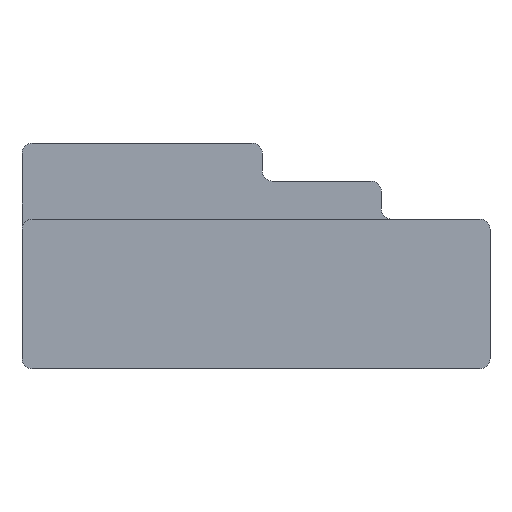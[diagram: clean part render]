
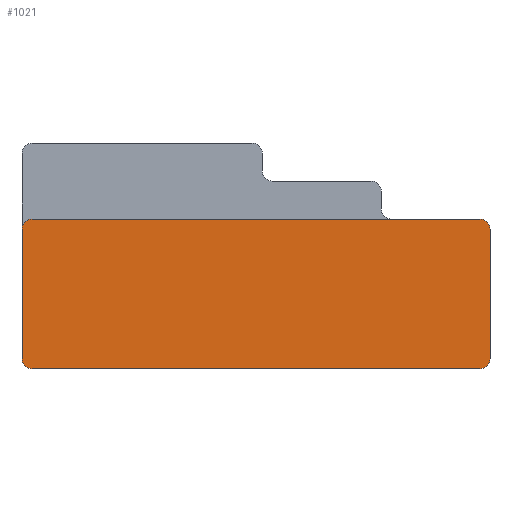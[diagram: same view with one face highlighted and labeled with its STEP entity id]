
A CAD part, front view. The second image highlights one B-rep face of the part: STEP entity #1021.
In plain terms, the highlighted planar face has unit normal (0, -1, 0).
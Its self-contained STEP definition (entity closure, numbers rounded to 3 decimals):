
#180=CARTESIAN_POINT('',(-10.9,-11.6,6.8));
#181=DIRECTION('',(0.,-1.,0.));
#182=DIRECTION('',(0.,0.,1.));
#183=AXIS2_PLACEMENT_3D('',#180,#181,#182);
#185=CARTESIAN_POINT('',(10.9,-11.6,6.8));
#186=DIRECTION('',(0.,-1.,0.));
#187=DIRECTION('',(1.,0.,0.));
#188=AXIS2_PLACEMENT_3D('',#185,#186,#187);
#190=CARTESIAN_POINT('',(10.9,-11.6,0.5));
#191=DIRECTION('',(0.,-1.,0.));
#192=DIRECTION('',(0.,0.,-1.));
#193=AXIS2_PLACEMENT_3D('',#190,#191,#192);
#195=CARTESIAN_POINT('',(-10.9,-11.6,0.5));
#196=DIRECTION('',(0.,-1.,0.));
#197=DIRECTION('',(-1.,0.,0.));
#198=AXIS2_PLACEMENT_3D('',#195,#196,#197);
#200=DIRECTION('',(0.,0.,1.));
#201=VECTOR('',#200,6.3);
#202=CARTESIAN_POINT('',(-11.4,-11.6,0.5));
#203=LINE('',#202,#201);
#288=DIRECTION('',(1.,0.,0.));
#289=VECTOR('',#288,21.8);
#290=CARTESIAN_POINT('',(-10.9,-11.6,7.3));
#291=LINE('',#290,#289);
#480=DIRECTION('',(1.,0.,0.));
#481=VECTOR('',#480,21.8);
#482=CARTESIAN_POINT('',(-10.9,-11.6,0.));
#483=LINE('',#482,#481);
#550=DIRECTION('',(0.,0.,1.));
#551=VECTOR('',#550,6.3);
#552=CARTESIAN_POINT('',(11.4,-11.6,0.5));
#553=LINE('',#552,#551);
#660=CARTESIAN_POINT('',(-10.9,-11.6,7.3));
#661=CARTESIAN_POINT('',(-11.4,-11.6,6.8));
#662=VERTEX_POINT('',#660);
#663=VERTEX_POINT('',#661);
#688=CARTESIAN_POINT('',(11.4,-11.6,6.8));
#689=VERTEX_POINT('',#688);
#690=CARTESIAN_POINT('',(10.9,-11.6,7.3));
#691=VERTEX_POINT('',#690);
#692=CARTESIAN_POINT('',(10.9,-11.6,0.));
#693=CARTESIAN_POINT('',(11.4,-11.6,0.5));
#694=VERTEX_POINT('',#692);
#695=VERTEX_POINT('',#693);
#704=CARTESIAN_POINT('',(-11.4,-11.6,0.5));
#705=VERTEX_POINT('',#704);
#706=CARTESIAN_POINT('',(-10.9,-11.6,0.));
#707=VERTEX_POINT('',#706);
#999=CARTESIAN_POINT('',(-11.4,-11.6,0.));
#1000=DIRECTION('',(0.,-1.,0.));
#1001=DIRECTION('',(1.,0.,0.));
#1002=AXIS2_PLACEMENT_3D('',#999,#1000,#1001);
#1003=PLANE('',#1002);
#1005=ORIENTED_EDGE('',*,*,#1004,.F.);
#1007=ORIENTED_EDGE('',*,*,#1006,.T.);
#1009=ORIENTED_EDGE('',*,*,#1008,.F.);
#1011=ORIENTED_EDGE('',*,*,#1010,.F.);
#1012=ORIENTED_EDGE('',*,*,#989,.F.);
#1014=ORIENTED_EDGE('',*,*,#1013,.F.);
#1016=ORIENTED_EDGE('',*,*,#1015,.F.);
#1018=ORIENTED_EDGE('',*,*,#1017,.T.);
#1019=EDGE_LOOP('',(#1005,#1007,#1009,#1011,#1012,#1014,#1016,#1018));
#1020=FACE_OUTER_BOUND('',#1019,.F.);
#1021=ADVANCED_FACE('',(#1020),#1003,.T.);
#184=CIRCLE('',#183,0.5);
#189=CIRCLE('',#188,0.5);
#194=CIRCLE('',#193,0.5);
#199=CIRCLE('',#198,0.5);
#989=EDGE_CURVE('',#694,#695,#194,.T.);
#1004=EDGE_CURVE('',#662,#663,#184,.T.);
#1006=EDGE_CURVE('',#662,#691,#291,.T.);
#1008=EDGE_CURVE('',#689,#691,#189,.T.);
#1010=EDGE_CURVE('',#695,#689,#553,.T.);
#1013=EDGE_CURVE('',#707,#694,#483,.T.);
#1015=EDGE_CURVE('',#705,#707,#199,.T.);
#1017=EDGE_CURVE('',#705,#663,#203,.T.);
